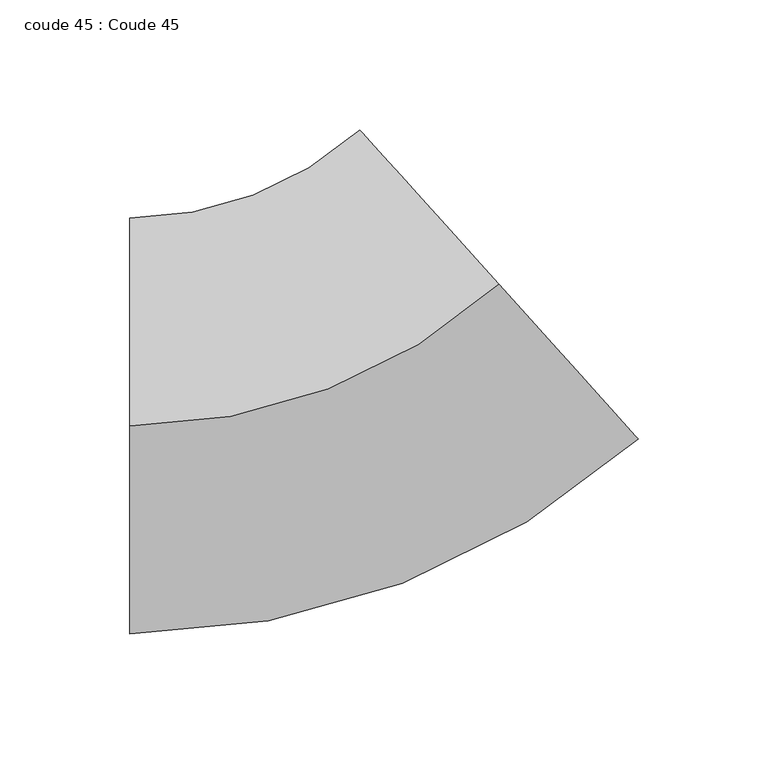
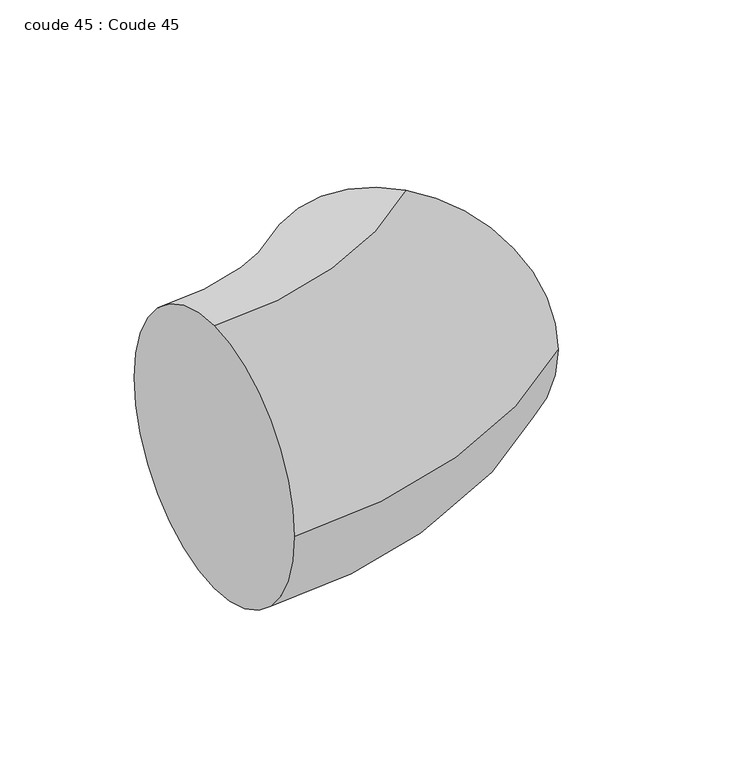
"""IFC4 building model written with IfcOpenShell, lengths in millimetres: duct fitting geometry, coude 45 : Coude 45."""

from ifc_helpers import new_model, si_unit, point, frame, origin, place, context, project, spatial, circle_curve, ellipse_curve, trimmed, source, transform, mapped, element, save
from ifc_brep_helpers import plane_surface, revolved_surface, advanced_brep


def coude_45_coude_45_5ee33517(model_context):
    return source(origin(), model_context, "Body", "AdvancedBrep", [
        advanced_brep(
        [(-191.9320175, 287.8859281, 80.0), (-191.9320175, 367.8859281, 0.0), (-191.9320175, 287.8859281, -80.0), (-191.9320175, 207.8859281, 0.0), (-50.0, 342.3685251, 80.0), (3.5304485, 282.9169391, 0.0), (-50.0, 342.3685251, -80.0), (-103.5304485, 401.8201111, 0.0)],
        [
            (0, 1, circle_curve(frame((-191.9320175, 287.8859281, 0.0), z_axis=(-1.0, 0.0, 0.0), x_axis=(0.0, 1.0, 0.0)), 80.0)),
            (1, 2, circle_curve(frame((-191.9320175, 287.8859281, 0.0), z_axis=(-1.0, 0.0, 0.0), x_axis=(0.0, 1.0, 0.0)), 80.0)),
            (2, 3, circle_curve(frame((-191.9320175, 287.8859281, 0.0), z_axis=(-1.0, 0.0, 0.0), x_axis=(0.0, 1.0, 0.0)), 80.0)),
            (3, 0, circle_curve(frame((-191.9320175, 287.8859281, 0.0), z_axis=(-1.0, 0.0, 0.0), x_axis=(0.0, 1.0, 0.0)), 80.0)),
            (4, 5, circle_curve(frame((-50.0, 342.3685251, 0.0), z_axis=(0.7431448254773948, 0.6691306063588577, 0.0), x_axis=(-0.6691306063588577, 0.7431448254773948, 0.0)), 80.0)),
            (5, 6, circle_curve(frame((-50.0, 342.3685251, 0.0), z_axis=(0.7431448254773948, 0.6691306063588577, 0.0), x_axis=(-0.6691306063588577, 0.7431448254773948, 0.0)), 80.0)),
            (6, 7, circle_curve(frame((-50.0, 342.3685251, 0.0), z_axis=(0.7431448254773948, 0.6691306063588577, 0.0), x_axis=(-0.6691306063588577, 0.7431448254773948, 0.0)), 80.0)),
            (7, 4, circle_curve(frame((-50.0, 342.3685251, 0.0), z_axis=(0.7431448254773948, 0.6691306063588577, 0.0), x_axis=(-0.6691306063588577, 0.7431448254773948, 0.0)), 80.0)),
            (7, 1, circle_curve(frame((-191.9320175, 500.0, 0.0), z_axis=(0.0, 0.0, -1.0), x_axis=(0.0, -1.0, 0.0)), 132.1140719)),
            (0, 4, circle_curve(frame((-191.9320175, 500.0, 80.0), z_axis=(0.0, 0.0, 1.0), x_axis=(0.0, -1.0, 0.0)), 212.1140719)),
            (6, 2, circle_curve(frame((-191.9320175, 500.0, -80.0), z_axis=(0.0, 0.0, -1.0), x_axis=(0.0, -1.0, 0.0)), 212.1140719)),
            (5, 3, circle_curve(frame((-191.9320175, 500.0, 0.0), z_axis=(0.0, 0.0, -1.0), x_axis=(0.0, -1.0, 0.0)), 292.1140719)),
        ],
        [
            plane_surface(frame((-191.9320175, 287.8859281, 0.0), z_axis=(-1.0, 0.0, 0.0), x_axis=(0.0, 0.0, 1.0))),
            plane_surface(frame((-50.0, 342.3685251, 0.0), z_axis=(0.7431448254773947, 0.6691306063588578, 0.0), x_axis=(0.0, 0.0, 1.0))),
            revolved_surface(trimmed(ellipse_curve(frame((-191.9320175, 287.8859281, 0.0), z_axis=(-1.0, 0.0, 0.0), x_axis=(0.0, 1.0, 0.0)), 80.0, 80.0), [point((-191.9320175, 287.8859281, 80.0))], [point((-191.9320175, 367.8859281, 0.0))], True, "CARTESIAN"), (-191.9320175, 500.0, 0.0), (0.0, 0.0, 1.0)),
            revolved_surface(trimmed(ellipse_curve(frame((-191.9320175, 287.8859281, 0.0), z_axis=(-1.0, 0.0, 0.0), x_axis=(0.0, 1.0, 0.0)), 80.0, 80.0), [point((-191.9320175, 367.8859281, 0.0))], [point((-191.9320175, 287.8859281, -80.0))], True, "CARTESIAN"), (-191.9320175, 500.0, 0.0), (0.0, 0.0, 1.0)),
            revolved_surface(trimmed(ellipse_curve(frame((-191.9320175, 287.8859281, 0.0), z_axis=(-1.0, 0.0, 0.0), x_axis=(0.0, 1.0, 0.0)), 80.0, 80.0), [point((-191.9320175, 287.8859281, -80.0))], [point((-191.9320175, 207.8859281, 0.0))], True, "CARTESIAN"), (-191.9320175, 500.0, 0.0), (0.0, 0.0, 1.0)),
            revolved_surface(trimmed(ellipse_curve(frame((-191.9320175, 287.8859281, 0.0), z_axis=(-1.0, 0.0, 0.0), x_axis=(0.0, 1.0, 0.0)), 80.0, 80.0), [point((-191.9320175, 207.8859281, 0.0))], [point((-191.9320175, 287.8859281, 80.0))], True, "CARTESIAN"), (-191.9320175, 500.0, 0.0), (0.0, 0.0, 1.0)),
        ],
        [
            (0, [[1, 2, 3, 4]]),
            (1, [[5, 6, 7, 8]]),
            (2, [[9, -1, 10, -8]]),
            (3, [[11, -2, -9, -7]]),
            (4, [[12, -3, -11, -6]]),
            (5, [[-10, -4, -12, -5]]),
        ],
    ),
    ])


if __name__ == "__main__":
    model = new_model("IFC4")
    model_context = context("Model", 3, world=origin())
    ifc_project = project(units=[si_unit("LENGTHUNIT", "METRE", prefix="MILLI")], contexts=[model_context])
    site = spatial("IfcSite", under=ifc_project)
    building = spatial("IfcBuilding", under=site)
    placement = place(None, origin())
    coude_45_coude_45_shape = coude_45_coude_45_5ee33517(model_context)
    element("IfcDuctFitting", 1, ObjectType="coude 45 : Coude 45", at=placement, inside=building, context=model_context, shape_type="MappedRepresentation", body=[
        mapped(coude_45_coude_45_shape, transform((0.0, 0.0, 0.0), x_axis=(1.0, 0.0, 0.0), y_axis=(0.0, 1.0, 0.0), z_axis=(0.0, 0.0, 1.0))),
    ])
    save(model, "model.ifc")
